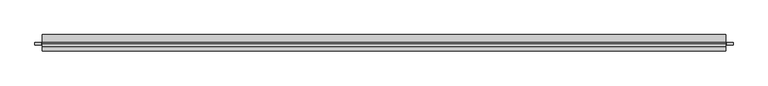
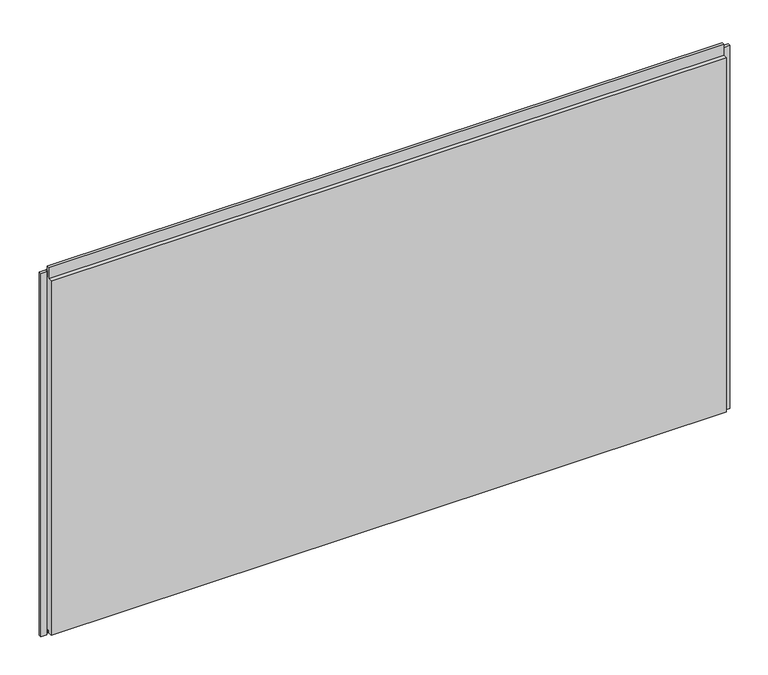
"""IFC4 building model written with IfcOpenShell, lengths in millimetres: plate geometry, Trimo_Qbiss Screen_Normal Panel-HORIZONTAL : HR - B."""

from ifc_helpers import new_model, si_unit, frame, origin, place, context, project, spatial, polyline, outline, extrude, source, transform, mapped, element, save


def plate_c43d1202(model_context):
    return source(origin(), model_context, "Body", "SweptSolid", [
        extrude(outline(polyline([(-1056.75, 121.5978162), (-1056.75, 112.8978162), (-1075.75, 112.8978162), (-1075.75, 121.5978162), (-1056.75, 121.5978162)])), frame((0.0, 0.0, -1.0), z_axis=(0.0, 0.0, 1.0), x_axis=(1.0, 0.0, 0.0)), (0.0, 0.0, 1.0), 1200.0),
        extrude(outline(polyline([(1056.75, 112.8978162), (1056.75, 121.5978162), (1075.75, 121.5978162), (1075.75, 112.8978162), (1056.75, 112.8978162)])), frame((0.0, 0.0, -1.0), z_axis=(0.0, 0.0, 1.0), x_axis=(1.0, 0.0, 0.0)), (0.0, 0.0, 1.0), 1200.0),
        extrude(outline(polyline([(1053.75, 121.0), (1053.75, 116.0), (-1053.75, 116.0), (-1053.75, 121.0), (1053.75, 121.0)])), frame((0.0, 0.0, 1178.0), z_axis=(0.0, 0.0, 1.0), x_axis=(1.0, 0.0, 0.0)), (0.0, 0.0, 1.0), 21.0),
        extrude(outline(polyline([(116.0, 1177.0), (145.0, 1177.0), (145.0, 0.0), (117.0, 0.0), (117.0, 15.5), (107.0, 15.5), (107.0, 7.0), (95.0, 7.0), (95.0, 1177.0), (108.0, 1177.0), (108.0, 1214.5), (116.0, 1214.5), (116.0, 1177.0)])), frame((-1053.75, 0.0, 0.0), z_axis=(1.0, 0.0, 0.0), x_axis=(0.0, 1.0, 0.0)), (0.0, 0.0, 1.0), 2107.5),
    ])


if __name__ == "__main__":
    model = new_model("IFC4")
    model_context = context("Model", 3, world=origin())
    ifc_project = project(units=[si_unit("LENGTHUNIT", "METRE", prefix="MILLI")], contexts=[model_context])
    site = spatial("IfcSite", under=ifc_project)
    building = spatial("IfcBuilding", under=site)
    placement = place(None, origin())
    plate_shape = plate_c43d1202(model_context)
    element("IfcPlate", 1, ObjectType="Trimo_Qbiss Screen_Normal Panel-HORIZONTAL : HR - B", at=placement, inside=building, context=model_context, shape_type="MappedRepresentation", body=[
        mapped(plate_shape, transform((0.0, 0.0, 0.0), x_axis=(1.0, 0.0, 0.0), y_axis=(0.0, 1.0, 0.0), z_axis=(0.0, 0.0, 1.0))),
    ])
    save(model, "model.ifc")
